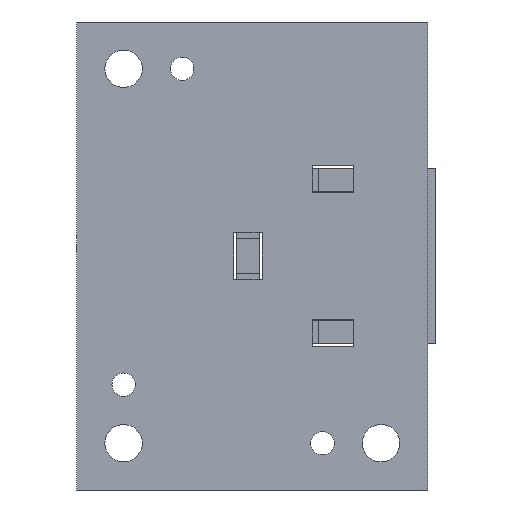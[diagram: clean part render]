
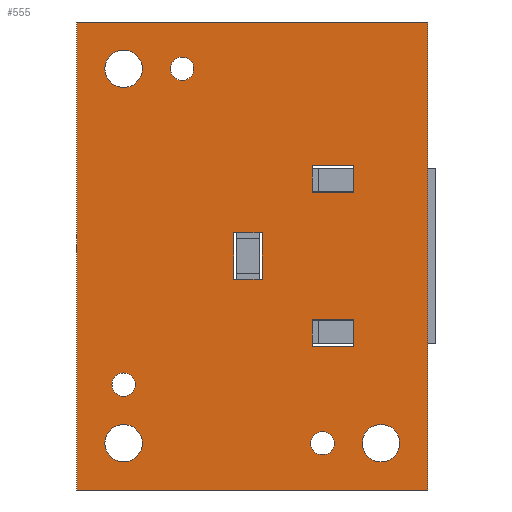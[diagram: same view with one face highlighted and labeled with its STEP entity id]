
A CAD part, front view. The second image highlights one B-rep face of the part: STEP entity #555.
In plain terms, the highlighted planar face has unit normal (0, -1, 0).
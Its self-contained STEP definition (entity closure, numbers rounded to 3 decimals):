
#2=DIRECTION('',(0.,0.,1.));
#3=VECTOR('',#2,40.);
#4=CARTESIAN_POINT('',(-15.,0.,-20.));
#5=LINE('',#4,#3);
#6=DIRECTION('',(1.,0.,0.));
#7=VECTOR('',#6,30.);
#8=CARTESIAN_POINT('',(-15.,0.,20.));
#9=LINE('',#8,#7);
#10=DIRECTION('',(0.,0.,-1.));
#11=VECTOR('',#10,40.);
#12=CARTESIAN_POINT('',(15.,0.,20.));
#13=LINE('',#12,#11);
#14=DIRECTION('',(-1.,0.,0.));
#15=VECTOR('',#14,30.);
#16=CARTESIAN_POINT('',(15.,0.,-20.));
#17=LINE('',#16,#15);
#18=CARTESIAN_POINT('',(-11.,0.,-16.));
#19=DIRECTION('',(0.,1.,0.));
#20=DIRECTION('',(0.,0.,1.));
#21=AXIS2_PLACEMENT_3D('',#18,#19,#20);
#23=CARTESIAN_POINT('',(-11.,0.,-16.));
#24=DIRECTION('',(0.,1.,0.));
#25=DIRECTION('',(0.,0.,-1.));
#26=AXIS2_PLACEMENT_3D('',#23,#24,#25);
#28=CARTESIAN_POINT('',(-11.,0.,-11.));
#29=DIRECTION('',(0.,1.,0.));
#30=DIRECTION('',(0.,0.,1.));
#31=AXIS2_PLACEMENT_3D('',#28,#29,#30);
#33=CARTESIAN_POINT('',(-11.,0.,-11.));
#34=DIRECTION('',(0.,1.,0.));
#35=DIRECTION('',(0.,0.,-1.));
#36=AXIS2_PLACEMENT_3D('',#33,#34,#35);
#38=CARTESIAN_POINT('',(-11.,0.,16.));
#39=DIRECTION('',(0.,1.,0.));
#40=DIRECTION('',(-1.,0.,0.));
#41=AXIS2_PLACEMENT_3D('',#38,#39,#40);
#43=CARTESIAN_POINT('',(-11.,0.,16.));
#44=DIRECTION('',(0.,1.,0.));
#45=DIRECTION('',(1.,0.,0.));
#46=AXIS2_PLACEMENT_3D('',#43,#44,#45);
#48=CARTESIAN_POINT('',(-6.,0.,16.));
#49=DIRECTION('',(0.,1.,0.));
#50=DIRECTION('',(-1.,0.,0.));
#51=AXIS2_PLACEMENT_3D('',#48,#49,#50);
#53=CARTESIAN_POINT('',(-6.,0.,16.));
#54=DIRECTION('',(0.,1.,0.));
#55=DIRECTION('',(1.,0.,0.));
#56=AXIS2_PLACEMENT_3D('',#53,#54,#55);
#58=CARTESIAN_POINT('',(11.,0.,-16.));
#59=DIRECTION('',(0.,1.,0.));
#60=DIRECTION('',(-1.,0.,0.));
#61=AXIS2_PLACEMENT_3D('',#58,#59,#60);
#63=CARTESIAN_POINT('',(11.,0.,-16.));
#64=DIRECTION('',(0.,1.,0.));
#65=DIRECTION('',(1.,0.,0.));
#66=AXIS2_PLACEMENT_3D('',#63,#64,#65);
#68=CARTESIAN_POINT('',(6.,0.,-16.));
#69=DIRECTION('',(0.,1.,0.));
#70=DIRECTION('',(-1.,0.,0.));
#71=AXIS2_PLACEMENT_3D('',#68,#69,#70);
#73=CARTESIAN_POINT('',(6.,0.,-16.));
#74=DIRECTION('',(0.,1.,0.));
#75=DIRECTION('',(1.,0.,0.));
#76=AXIS2_PLACEMENT_3D('',#73,#74,#75);
#78=DIRECTION('',(-1.,0.,0.));
#79=VECTOR('',#78,3.55);
#80=CARTESIAN_POINT('',(8.685,0.,-7.705));
#81=LINE('',#80,#79);
#82=DIRECTION('',(0.,0.,-1.));
#83=VECTOR('',#82,2.25);
#84=CARTESIAN_POINT('',(8.685,0.,-5.455));
#85=LINE('',#84,#83);
#86=DIRECTION('',(1.,0.,0.));
#87=VECTOR('',#86,3.55);
#88=CARTESIAN_POINT('',(5.135,0.,-5.455));
#89=LINE('',#88,#87);
#90=DIRECTION('',(0.,0.,1.));
#91=VECTOR('',#90,2.25);
#92=CARTESIAN_POINT('',(5.135,0.,-7.705));
#93=LINE('',#92,#91);
#94=DIRECTION('',(-1.,0.,0.));
#95=VECTOR('',#94,3.55);
#96=CARTESIAN_POINT('',(8.685,0.,5.455));
#97=LINE('',#96,#95);
#98=DIRECTION('',(0.,0.,-1.));
#99=VECTOR('',#98,2.25);
#100=CARTESIAN_POINT('',(8.685,0.,7.705));
#101=LINE('',#100,#99);
#102=DIRECTION('',(1.,0.,0.));
#103=VECTOR('',#102,3.55);
#104=CARTESIAN_POINT('',(5.135,0.,7.705));
#105=LINE('',#104,#103);
#106=DIRECTION('',(0.,0.,1.));
#107=VECTOR('',#106,2.25);
#108=CARTESIAN_POINT('',(5.135,0.,5.455));
#109=LINE('',#108,#107);
#110=DIRECTION('',(-1.,0.,0.));
#111=VECTOR('',#110,2.4);
#112=CARTESIAN_POINT('',(0.83,0.,-2.));
#113=LINE('',#112,#111);
#114=DIRECTION('',(0.,0.,-1.));
#115=VECTOR('',#114,4.);
#116=CARTESIAN_POINT('',(0.83,0.,2.));
#117=LINE('',#116,#115);
#118=DIRECTION('',(1.,0.,0.));
#119=VECTOR('',#118,2.4);
#120=CARTESIAN_POINT('',(-1.57,0.,2.));
#121=LINE('',#120,#119);
#122=DIRECTION('',(0.,0.,1.));
#123=VECTOR('',#122,4.);
#124=CARTESIAN_POINT('',(-1.57,0.,-2.));
#125=LINE('',#124,#123);
#362=CARTESIAN_POINT('',(-15.,0.,-20.));
#363=CARTESIAN_POINT('',(-15.,0.,20.));
#364=VERTEX_POINT('',#362);
#365=VERTEX_POINT('',#363);
#366=CARTESIAN_POINT('',(15.,0.,20.));
#367=VERTEX_POINT('',#366);
#368=CARTESIAN_POINT('',(15.,0.,-20.));
#369=VERTEX_POINT('',#368);
#378=CARTESIAN_POINT('',(-12.6,0.,16.));
#379=CARTESIAN_POINT('',(-9.4,0.,16.));
#380=VERTEX_POINT('',#378);
#381=VERTEX_POINT('',#379);
#382=CARTESIAN_POINT('',(-7.,0.,16.));
#383=CARTESIAN_POINT('',(-5.,0.,16.));
#384=VERTEX_POINT('',#382);
#385=VERTEX_POINT('',#383);
#386=CARTESIAN_POINT('',(9.4,0.,-16.));
#387=CARTESIAN_POINT('',(12.6,0.,-16.));
#388=VERTEX_POINT('',#386);
#389=VERTEX_POINT('',#387);
#390=CARTESIAN_POINT('',(5.,0.,-16.));
#391=CARTESIAN_POINT('',(7.,0.,-16.));
#392=VERTEX_POINT('',#390);
#393=VERTEX_POINT('',#391);
#410=CARTESIAN_POINT('',(-11.,0.,-14.4));
#411=CARTESIAN_POINT('',(-11.,0.,-17.6));
#412=VERTEX_POINT('',#410);
#413=VERTEX_POINT('',#411);
#414=CARTESIAN_POINT('',(-11.,0.,-10.));
#415=CARTESIAN_POINT('',(-11.,0.,-12.));
#416=VERTEX_POINT('',#414);
#417=VERTEX_POINT('',#415);
#426=CARTESIAN_POINT('',(8.685,0.,-7.705));
#427=CARTESIAN_POINT('',(5.135,0.,-7.705));
#428=VERTEX_POINT('',#426);
#429=VERTEX_POINT('',#427);
#430=CARTESIAN_POINT('',(5.135,0.,-5.455));
#431=VERTEX_POINT('',#430);
#432=CARTESIAN_POINT('',(8.685,0.,-5.455));
#433=VERTEX_POINT('',#432);
#434=CARTESIAN_POINT('',(8.685,0.,5.455));
#435=CARTESIAN_POINT('',(5.135,0.,5.455));
#436=VERTEX_POINT('',#434);
#437=VERTEX_POINT('',#435);
#438=CARTESIAN_POINT('',(5.135,0.,7.705));
#439=VERTEX_POINT('',#438);
#440=CARTESIAN_POINT('',(8.685,0.,7.705));
#441=VERTEX_POINT('',#440);
#442=CARTESIAN_POINT('',(0.83,0.,-2.));
#443=CARTESIAN_POINT('',(-1.57,0.,-2.));
#444=VERTEX_POINT('',#442);
#445=VERTEX_POINT('',#443);
#446=CARTESIAN_POINT('',(-1.57,0.,2.));
#447=VERTEX_POINT('',#446);
#448=CARTESIAN_POINT('',(0.83,0.,2.));
#449=VERTEX_POINT('',#448);
#474=CARTESIAN_POINT('',(0.,0.,0.));
#475=DIRECTION('',(0.,1.,0.));
#476=DIRECTION('',(1.,0.,0.));
#477=AXIS2_PLACEMENT_3D('',#474,#475,#476);
#478=PLANE('',#477);
#480=ORIENTED_EDGE('',*,*,#479,.T.);
#482=ORIENTED_EDGE('',*,*,#481,.T.);
#484=ORIENTED_EDGE('',*,*,#483,.T.);
#486=ORIENTED_EDGE('',*,*,#485,.T.);
#487=EDGE_LOOP('',(#480,#482,#484,#486));
#488=FACE_OUTER_BOUND('',#487,.F.);
#490=ORIENTED_EDGE('',*,*,#489,.F.);
#492=ORIENTED_EDGE('',*,*,#491,.F.);
#493=EDGE_LOOP('',(#490,#492));
#494=FACE_BOUND('',#493,.F.);
#496=ORIENTED_EDGE('',*,*,#495,.F.);
#498=ORIENTED_EDGE('',*,*,#497,.F.);
#499=EDGE_LOOP('',(#496,#498));
#500=FACE_BOUND('',#499,.F.);
#502=ORIENTED_EDGE('',*,*,#501,.F.);
#504=ORIENTED_EDGE('',*,*,#503,.F.);
#505=EDGE_LOOP('',(#502,#504));
#506=FACE_BOUND('',#505,.F.);
#508=ORIENTED_EDGE('',*,*,#507,.F.);
#510=ORIENTED_EDGE('',*,*,#509,.F.);
#511=EDGE_LOOP('',(#508,#510));
#512=FACE_BOUND('',#511,.F.);
#514=ORIENTED_EDGE('',*,*,#513,.F.);
#516=ORIENTED_EDGE('',*,*,#515,.F.);
#517=EDGE_LOOP('',(#514,#516));
#518=FACE_BOUND('',#517,.F.);
#520=ORIENTED_EDGE('',*,*,#519,.F.);
#522=ORIENTED_EDGE('',*,*,#521,.F.);
#523=EDGE_LOOP('',(#520,#522));
#524=FACE_BOUND('',#523,.F.);
#526=ORIENTED_EDGE('',*,*,#525,.F.);
#528=ORIENTED_EDGE('',*,*,#527,.F.);
#530=ORIENTED_EDGE('',*,*,#529,.F.);
#532=ORIENTED_EDGE('',*,*,#531,.F.);
#533=EDGE_LOOP('',(#526,#528,#530,#532));
#534=FACE_BOUND('',#533,.F.);
#536=ORIENTED_EDGE('',*,*,#535,.F.);
#538=ORIENTED_EDGE('',*,*,#537,.F.);
#540=ORIENTED_EDGE('',*,*,#539,.F.);
#542=ORIENTED_EDGE('',*,*,#541,.F.);
#543=EDGE_LOOP('',(#536,#538,#540,#542));
#544=FACE_BOUND('',#543,.F.);
#546=ORIENTED_EDGE('',*,*,#545,.F.);
#548=ORIENTED_EDGE('',*,*,#547,.F.);
#550=ORIENTED_EDGE('',*,*,#549,.F.);
#552=ORIENTED_EDGE('',*,*,#551,.F.);
#553=EDGE_LOOP('',(#546,#548,#550,#552));
#554=FACE_BOUND('',#553,.F.);
#555=ADVANCED_FACE('',(#488,#494,#500,#506,#512,#518,#524,#534,#544,#554),#478,
.F.);
#22=CIRCLE('',#21,1.6);
#27=CIRCLE('',#26,1.6);
#32=CIRCLE('',#31,1.);
#37=CIRCLE('',#36,1.);
#42=CIRCLE('',#41,1.6);
#47=CIRCLE('',#46,1.6);
#52=CIRCLE('',#51,1.);
#57=CIRCLE('',#56,1.);
#62=CIRCLE('',#61,1.6);
#67=CIRCLE('',#66,1.6);
#72=CIRCLE('',#71,1.);
#77=CIRCLE('',#76,1.);
#479=EDGE_CURVE('',#364,#365,#5,.T.);
#481=EDGE_CURVE('',#365,#367,#9,.T.);
#483=EDGE_CURVE('',#367,#369,#13,.T.);
#485=EDGE_CURVE('',#369,#364,#17,.T.);
#489=EDGE_CURVE('',#412,#413,#22,.T.);
#491=EDGE_CURVE('',#413,#412,#27,.T.);
#495=EDGE_CURVE('',#416,#417,#32,.T.);
#497=EDGE_CURVE('',#417,#416,#37,.T.);
#501=EDGE_CURVE('',#380,#381,#42,.T.);
#503=EDGE_CURVE('',#381,#380,#47,.T.);
#507=EDGE_CURVE('',#384,#385,#52,.T.);
#509=EDGE_CURVE('',#385,#384,#57,.T.);
#513=EDGE_CURVE('',#388,#389,#62,.T.);
#515=EDGE_CURVE('',#389,#388,#67,.T.);
#519=EDGE_CURVE('',#392,#393,#72,.T.);
#521=EDGE_CURVE('',#393,#392,#77,.T.);
#525=EDGE_CURVE('',#428,#429,#81,.T.);
#527=EDGE_CURVE('',#433,#428,#85,.T.);
#529=EDGE_CURVE('',#431,#433,#89,.T.);
#531=EDGE_CURVE('',#429,#431,#93,.T.);
#535=EDGE_CURVE('',#436,#437,#97,.T.);
#537=EDGE_CURVE('',#441,#436,#101,.T.);
#539=EDGE_CURVE('',#439,#441,#105,.T.);
#541=EDGE_CURVE('',#437,#439,#109,.T.);
#545=EDGE_CURVE('',#444,#445,#113,.T.);
#547=EDGE_CURVE('',#449,#444,#117,.T.);
#549=EDGE_CURVE('',#447,#449,#121,.T.);
#551=EDGE_CURVE('',#445,#447,#125,.T.);
